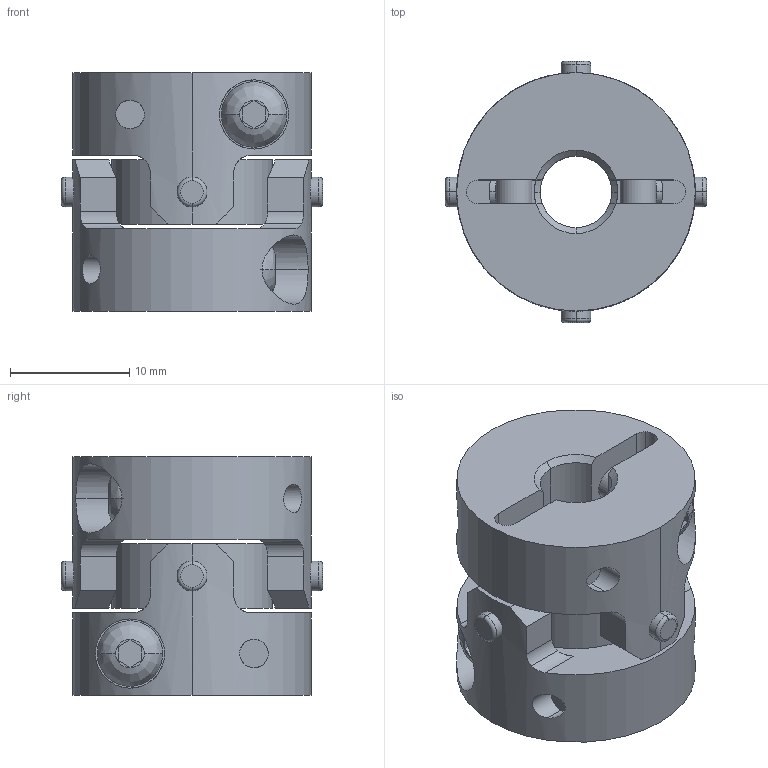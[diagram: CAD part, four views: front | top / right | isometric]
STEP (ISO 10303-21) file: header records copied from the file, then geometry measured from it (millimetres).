
FILE_DESCRIPTION((''),'2;1');
FILE_NAME('UA-20C-6×6.stp','2013-05-16T09:02:19',(''),(''),'AutoCAD STEP 2000i','AutoCAD 2000i',', , ');
FILE_SCHEMA(('CONFIG_CONTROL_DESIGN'));
Length unit declared in the file: millimetre
Products named in the file (6): UA-20C-4×4; 忣兜1; UA-2002-D04-1; BTN-M3; UA-2002-D04; UA20-SEN
Assembly tree (6 placements, depth 3):
  UA-20C-4×4
    忣兜1
    UA-2002-D04-1
      BTN-M3
    UA-2002-D04
      BTN-M3
    UA20-SEN
Bounding box: 21.89 x 21.89 x 20 mm (x, y, z)
Volume: 4444.3 mm3; surface area: 3857 mm2
Topology: 1 solids, 1 shells, 206 faces, 554 edges, 364 vertices
Faces by surface type: cylinder 96, plane 78, cone 16, bspline 8, torus 8
Entity records: 8011 total; most frequent: CARTESIAN_POINT 2695, ORIENTED_EDGE 1108, DIRECTION 1064, EDGE_CURVE 554, AXIS2_PLACEMENT_3D 409, VERTEX_POINT 364, VECTOR 246, LINE 246
